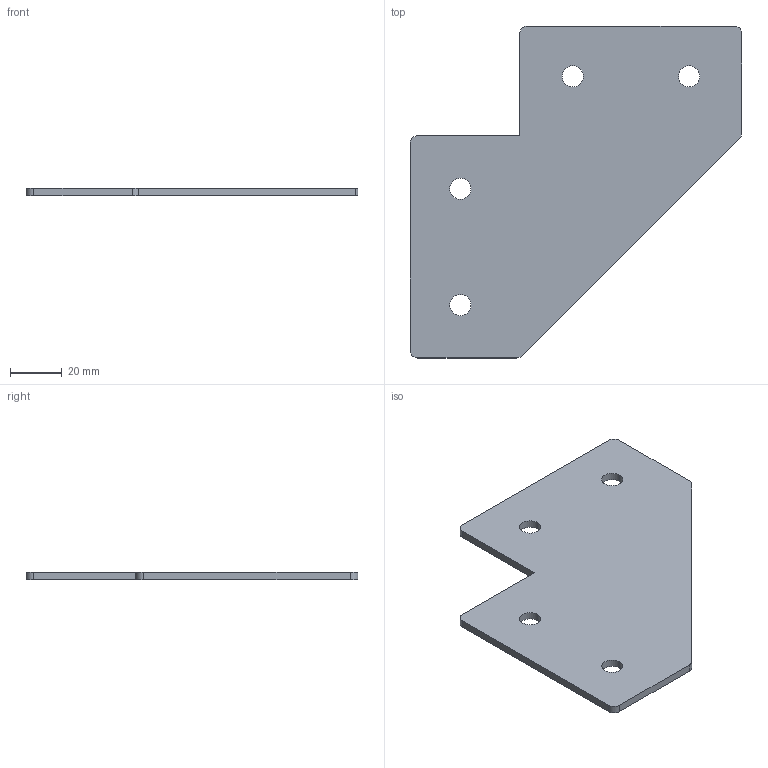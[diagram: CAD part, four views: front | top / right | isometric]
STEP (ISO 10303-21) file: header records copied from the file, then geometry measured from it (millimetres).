
FILE_DESCRIPTION (( 'STEP AP214' ), '1' );
FILE_NAME ('ﾃ-4-ﾓ4545-45.STEP', '2020-07-08T10:47:44', ( '' ), ( '' ), 'SwSTEP 2.0', 'SolidWorks 2018', '' );
FILE_SCHEMA (( 'AUTOMOTIVE_DESIGN' ));
Length unit declared in the file: millimetre
Products named in the file (1): ﾃ-4-ﾓ4545-45
Bounding box: 128.5 x 128.5 x 3 mm (x, y, z)
Volume: 32365.9 mm3; surface area: 23261.1 mm2
Topology: 1 solids, 1 shells, 23 faces, 63 edges, 42 vertices
Faces by surface type: cylinder 14, plane 9
Entity records: 795 total; most frequent: DIRECTION 139, CARTESIAN_POINT 129, ORIENTED_EDGE 126, EDGE_CURVE 63, AXIS2_PLACEMENT_3D 52, VERTEX_POINT 42, LINE 35, VECTOR 35
